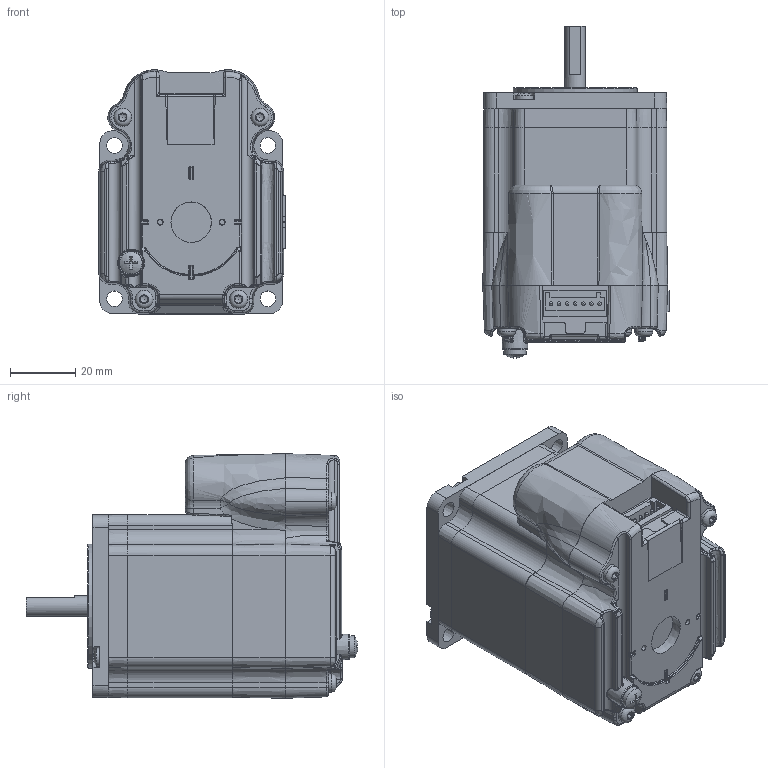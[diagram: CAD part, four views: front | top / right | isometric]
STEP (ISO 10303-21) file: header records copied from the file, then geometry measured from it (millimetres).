
FILE_DESCRIPTION(('MDrive23Plus, Double-Stack, P1 (IO PWR) and P2 (RD or RL 10-Pin).stp'),'1');
FILE_NAME('T:/Kubotek Models For Design Assemblies/3D Step File Models Posted on-line/MDrive23 Hybrid/Motion Control and Step, Torque, Speed/MDrive23Plus, Double-Stack, P1 (IO PWR) and P2 (RD or RL 10-Pin).stp', '2016-06-23T14:13:30',('P. Bordua, 06/23/16'), ('Kubotek USA, Inc.'), 'KCM Version 1.1.1406.0', 'Kubotek KeyCreator', 'KC');
FILE_SCHEMA(('AUTOMOTIVE_DESIGN'));
Length unit declared in the file: inch
Bounding box: 57.34 x 102.08 x 75.2 mm (x, y, z)
Volume: 246515.2 mm3; surface area: 36453.9 mm2
Topology: 2 solids, 2 shells, 877 faces, 2191 edges, 1332 vertices
Faces by surface type: plane 304, bspline 244, cylinder 219, cone 52, sphere 41, torus 17
Full cylindrical faces by diameter (mm): 1.041 x7, 5.563 x4, 5.6 x4, 6.35 x1, 6.858 x1, 7.62 x1, 8.001 x1, 10.16 x1, 38.1 x1
Entity records: 51370 total; most frequent: CARTESIAN_POINT 30315, ORIENTED_EDGE 4322, DIRECTION 3394, EDGE_CURVE 2161, VERTEX_POINT 1332, AXIS2_PLACEMENT_3D 1280, EDGE_LOOP 929, FACE_OUTER_BOUND 877
